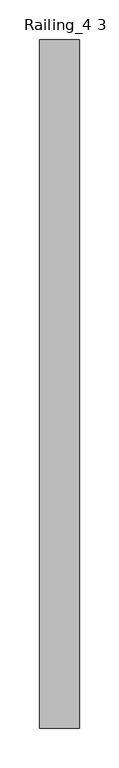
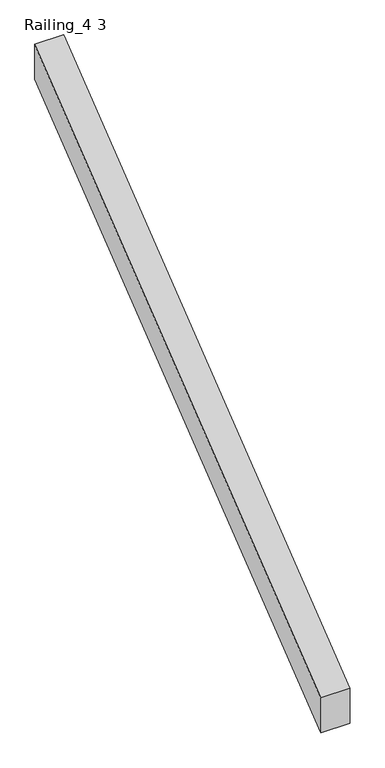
"""IFC4 building model written with IfcOpenShell, lengths in millimetres: railing geometry, Railing_4 3."""

from ifc_helpers import new_model, si_unit, frame, origin, place, context, project, spatial, polyline, outline, extrude, source, transform, mapped, element, save


def railing_4_3_2b835bbb(model_context):
    return source(origin(), model_context, "Body", "SweptSolid", [
        extrude(outline(polyline([(1365.7837301, 2527.4472276), (1365.7837301, 2592.0876777), (2235.970457, 3276.7916621), (2235.970457, 3212.151212), (1365.7837301, 2527.4472276)])), frame((6159.5, 0.0, 0.0), z_axis=(1.0, 0.0, 0.0), x_axis=(0.0, 1.0, 0.0)), (0.0, 0.0, 1.0), 50.8),
    ])


if __name__ == "__main__":
    model = new_model("IFC4")
    model_context = context("Model", 3, world=origin())
    ifc_project = project(units=[si_unit("LENGTHUNIT", "METRE", prefix="MILLI")], contexts=[model_context])
    site = spatial("IfcSite", under=ifc_project)
    building = spatial("IfcBuilding", under=site)
    placement = place(None, origin())
    railing_4_3_shape = railing_4_3_2b835bbb(model_context)
    element("IfcRailing", 1, ObjectType="Railing_4 3", at=placement, inside=building, context=model_context, shape_type="MappedRepresentation", body=[
        mapped(railing_4_3_shape, transform((0.0, 0.0, 0.0), x_axis=(1.0, 0.0, 0.0), y_axis=(0.0, 1.0, 0.0), z_axis=(0.0, 0.0, 1.0))),
    ])
    save(model, "model.ifc")
